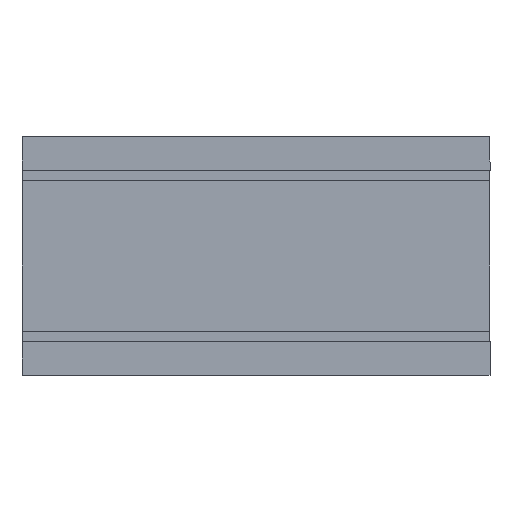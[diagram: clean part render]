
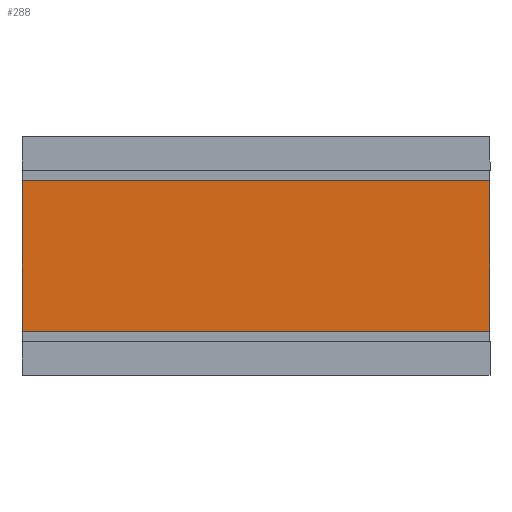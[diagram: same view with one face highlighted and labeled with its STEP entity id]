
A CAD part, top view. The second image highlights one B-rep face of the part: STEP entity #288.
In plain terms, the highlighted planar face has unit normal (0, 0, 1).
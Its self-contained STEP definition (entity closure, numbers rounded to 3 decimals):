
#112=CARTESIAN_POINT('',(0.0,243.142,-3.1));
#113=VERTEX_POINT('',#112);
#122=CARTESIAN_POINT('',(500.0,243.142,-3.1));
#123=VERTEX_POINT('',#122);
#124=CARTESIAN_POINT('',(500.0,243.142,-3.1));
#125=DIRECTION('',(-1.0,0.0,0.0));
#126=VECTOR('',#125,500.0);
#127=LINE('',#124,#126);
#128=EDGE_CURVE('',#123,#113,#127,.T.);
#154=CARTESIAN_POINT('',(0.0,81.858,-3.1));
#155=VERTEX_POINT('',#154);
#170=CARTESIAN_POINT('',(500.0,81.858,-3.1));
#171=VERTEX_POINT('',#170);
#178=CARTESIAN_POINT('',(0.0,81.858,-3.1));
#179=DIRECTION('',(1.0,0.0,0.0));
#180=VECTOR('',#179,500.0);
#181=LINE('',#178,#180);
#182=EDGE_CURVE('',#155,#171,#181,.T.);
#267=CARTESIAN_POINT('',(0.0,35.,-3.1));
#268=DIRECTION('',(0.0,0.0,1.0));
#269=DIRECTION('',(1.0,0.0,0.0));
#270=AXIS2_PLACEMENT_3D('',#267,#268,#269);
#271=PLANE('',#270);
#272=ORIENTED_EDGE('',*,*,#128,.T.);
#273=CARTESIAN_POINT('',(0.0,243.142,-3.1));
#274=DIRECTION('',(0.0,-1.0,0.0));
#275=VECTOR('',#274,161.285);
#276=LINE('',#273,#275);
#277=EDGE_CURVE('',#113,#155,#276,.T.);
#278=ORIENTED_EDGE('',*,*,#277,.T.);
#279=ORIENTED_EDGE('',*,*,#182,.T.);
#280=CARTESIAN_POINT('',(500.0,81.858,-3.1));
#281=DIRECTION('',(0.0,1.0,0.0));
#282=VECTOR('',#281,161.285);
#283=LINE('',#280,#282);
#284=EDGE_CURVE('',#171,#123,#283,.T.);
#285=ORIENTED_EDGE('',*,*,#284,.T.);
#286=EDGE_LOOP('',(#272,#278,#279,#285));
#287=FACE_OUTER_BOUND('',#286,.T.);
#288=ADVANCED_FACE('',(#287),#271,.T.);
